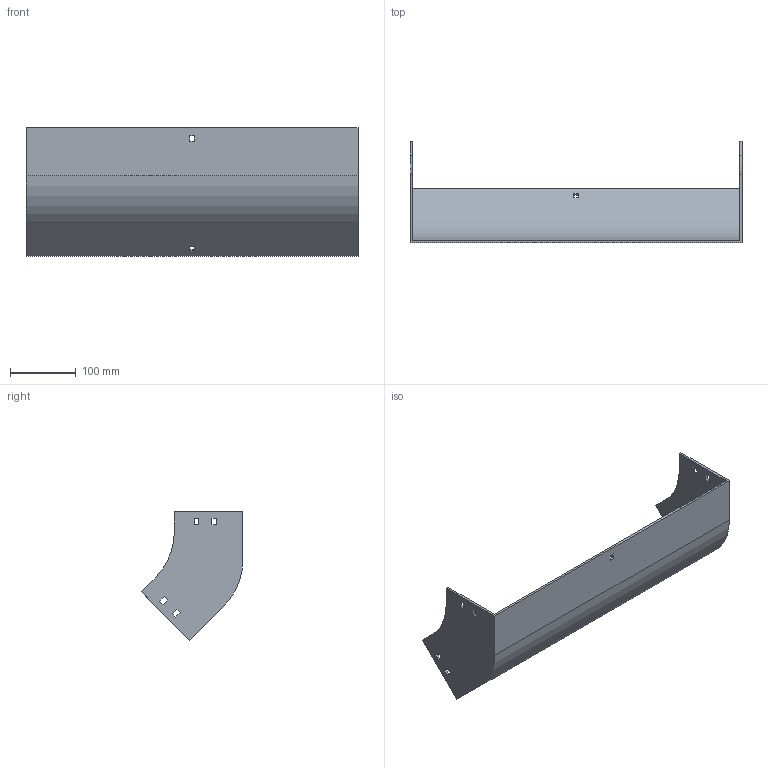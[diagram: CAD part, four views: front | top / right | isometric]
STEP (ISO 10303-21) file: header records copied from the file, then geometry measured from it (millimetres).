
FILE_DESCRIPTION (( 'STEP AP214' ), '1' );
FILE_NAME ('31F1D500.step', '2025-02-21T12:59:12', ( '' ), ( '' ), 'SwSTEP 2.0', 'SolidWorks 2023', '' );
FILE_SCHEMA (( 'AUTOMOTIVE_DESIGN' ));
Length unit declared in the file: millimetre
Products named in the file (1): 31F1D500
Bounding box: 504 x 154.5 x 195.46 mm (x, y, z)
Volume: 521449.2 mm3; surface area: 305054.4 mm2
Topology: 1 solids, 1 shells, 58 faces, 168 edges, 112 vertices
Faces by surface type: plane 54, cylinder 4
Entity records: 1943 total; most frequent: CARTESIAN_POINT 339, ORIENTED_EDGE 336, DIRECTION 294, EDGE_CURVE 168, LINE 160, VECTOR 160, VERTEX_POINT 112, EDGE_LOOP 78
